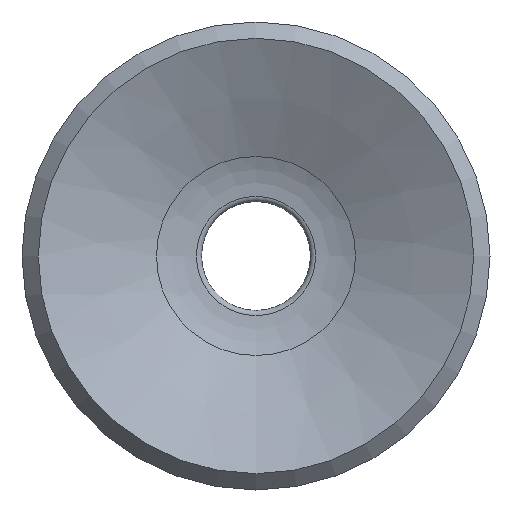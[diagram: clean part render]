
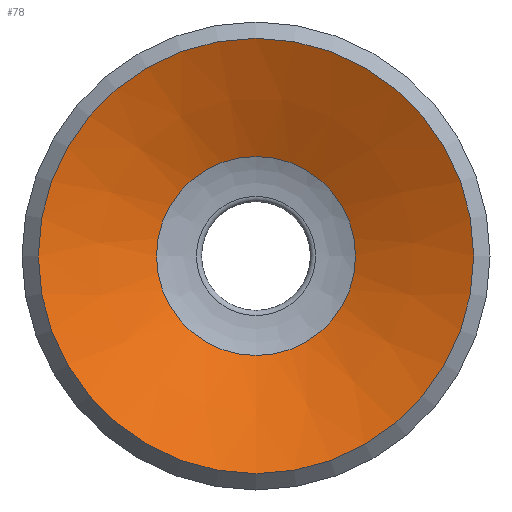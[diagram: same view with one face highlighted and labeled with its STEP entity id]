
A CAD part, front view. The second image highlights one B-rep face of the part: STEP entity #78.
In plain terms, the highlighted conical face has half-angle 65 degrees and reference radius 1.427 mm.
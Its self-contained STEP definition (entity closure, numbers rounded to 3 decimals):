
#78=ADVANCED_FACE('',(#104,#105),#106,.F.);
#104=FACE_BOUND('',#161,.T.);
#105=FACE_OUTER_BOUND('',#162,.T.);
#106=CONICAL_SURFACE('',#163,1.427,1.134);
#161=EDGE_LOOP('',(#258));
#162=EDGE_LOOP('',(#259));
#163=AXIS2_PLACEMENT_3D('',#260,#261,#262);
#258=ORIENTED_EDGE('',*,*,#339,.T.);
#259=ORIENTED_EDGE('',*,*,#340,.T.);
#260=CARTESIAN_POINT('',(0.0,7.096,0.));
#261=DIRECTION('',(-0.0,-1.0,0.));
#262=DIRECTION('',(0.0,0.,-1.0));
#339=EDGE_CURVE('',#362,#362,#363,.F.);
#340=EDGE_CURVE('',#364,#364,#365,.T.);
#362=VERTEX_POINT('',#400);
#363=CIRCLE('',#401,1.828);
#364=VERTEX_POINT('',#402);
#365=CIRCLE('',#403,4.0);
#400=CARTESIAN_POINT('',(0.0,6.909,-1.828));
#401=AXIS2_PLACEMENT_3D('',#442,#443,#444);
#402=CARTESIAN_POINT('',(4.0,5.896,0.0));
#403=AXIS2_PLACEMENT_3D('',#445,#446,#447);
#442=CARTESIAN_POINT('',(0.0,6.909,0.));
#443=DIRECTION('',(0.0,-1.0,0.));
#444=DIRECTION('',(0.0,0.,-1.0));
#445=CARTESIAN_POINT('',(0.0,5.896,0.0));
#446=DIRECTION('',(0.0,-1.0,0.));
#447=DIRECTION('',(0.0,0.,-1.0));
